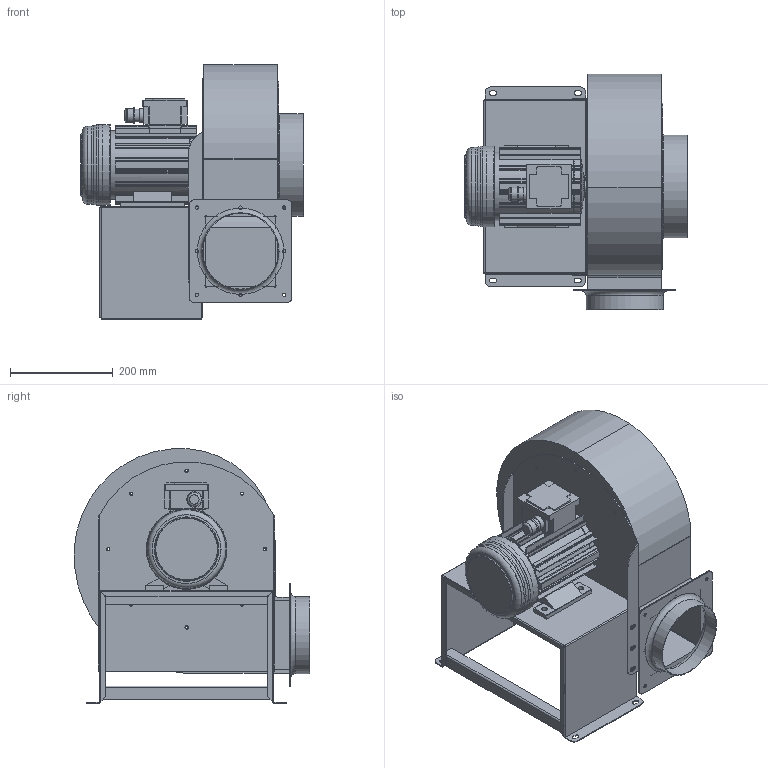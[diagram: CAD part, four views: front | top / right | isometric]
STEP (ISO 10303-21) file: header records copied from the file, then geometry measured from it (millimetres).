
FILE_DESCRIPTION(/* description */ ('Unknown'),/* implementation_level */ '2;1');
FILE_NAME(/* name */ 'CYT285A2P3Q-EG 型錄',/* time_stamp */ '2026-05-16T16:30:26+08:00',/* author */ ('Unknown'),/* organization */ ('Unknown'),/* preprocessor_version */ 'ST-DEVELOPER v20',/* originating_system */ 'Solid Edge',/* authorisation */ 'Unknown');
FILE_SCHEMA (('AUTOMOTIVE_DESIGN {1 0 10303 214 3 1 1}'));
Length unit declared in the file: millimetre
Products named in the file (10): CYT285A2P3Q-EG ｫｬ蝙矩隙.stp; CYT285-07; CYT285##07   順序; CYT285##07-1   順序; JM1802P3-EG-AL3; CYT285-06   順序; CYT285-01; CYT285-08   同步8; CYT285-04-8''; CYT285-05-v01 同步
Assembly tree (9 placements, depth 3):
  CYT285A2P3Q-EG ｫｬ蝙矩隙.stp
    CYT285-07
      CYT285##07   順序
      CYT285##07-1   順序  x2
    JM1802P3-EG-AL3
    CYT285-06   順序
    CYT285-01
    CYT285-08   同步8
    CYT285-05-v01 同步
  CYT285-04-8''
Bounding box: 432.2 x 458.13 x 495.24 mm (x, y, z)
Volume: 13853108.2 mm3; surface area: 1998281.1 mm2
Topology: 9 solids, 10 shells, 807 faces, 2251 edges, 1428 vertices
Faces by surface type: plane 401, cylinder 376, torus 16, cone 13, bspline 1
Full cylindrical faces by diameter (mm): 5 x9, 6.5 x36, 10.5 x4, 19 x1, 20 x1, 25 x1, 26.5 x1, 27 x2, 30 x1, 60 x1, 131 x2, 133.5 x1, 147.6 x1, 150 x2, 152 x1, 155 x2, 157 x1, 198 x1, 200 x1, 290 x1, 325 x2
Entity records: 25663 total; most frequent: CARTESIAN_POINT 4652, DIRECTION 4437, ORIENTED_EDGE 4186, EDGE_CURVE 2093, AXIS2_PLACEMENT_3D 1597, VERTEX_POINT 1380, LINE 1243, VECTOR 1243
